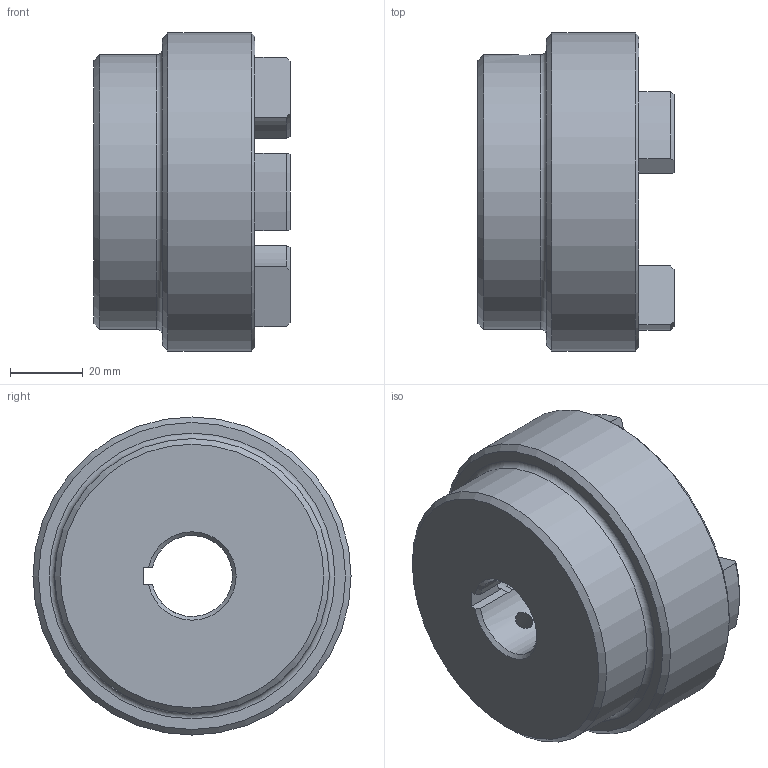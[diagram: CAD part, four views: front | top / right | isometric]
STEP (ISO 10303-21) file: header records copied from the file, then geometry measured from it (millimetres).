
FILE_DESCRIPTION (( 'STEP AP203' ), '1' );
FILE_NAME ('RC3.step', '2024-07-24T12:45:15', ( 'Adlan' ), ( '' ), 'SwSTEP 2.0', 'SolidWorks 2013', '' );
FILE_SCHEMA (( 'CONFIG_CONTROL_DESIGN' ));
Length unit declared in the file: inch
Products named in the file (1): RC3
Bounding box: 53.85 x 87.38 x 87.38 mm (x, y, z)
Volume: 182494.9 mm3; surface area: 30474.6 mm2
Topology: 1 solids, 1 shells, 70 faces, 180 edges, 113 vertices
Faces by surface type: cylinder 26, plane 19, torus 13, cone 12
Full cylindrical faces by diameter (mm): 5.105 x2, 75.438 x1, 87.376 x1
Entity records: 2363 total; most frequent: CARTESIAN_POINT 599, DIRECTION 370, ORIENTED_EDGE 332, EDGE_CURVE 166, AXIS2_PLACEMENT_3D 146, VERTEX_POINT 109, EDGE_LOOP 87, LINE 78
